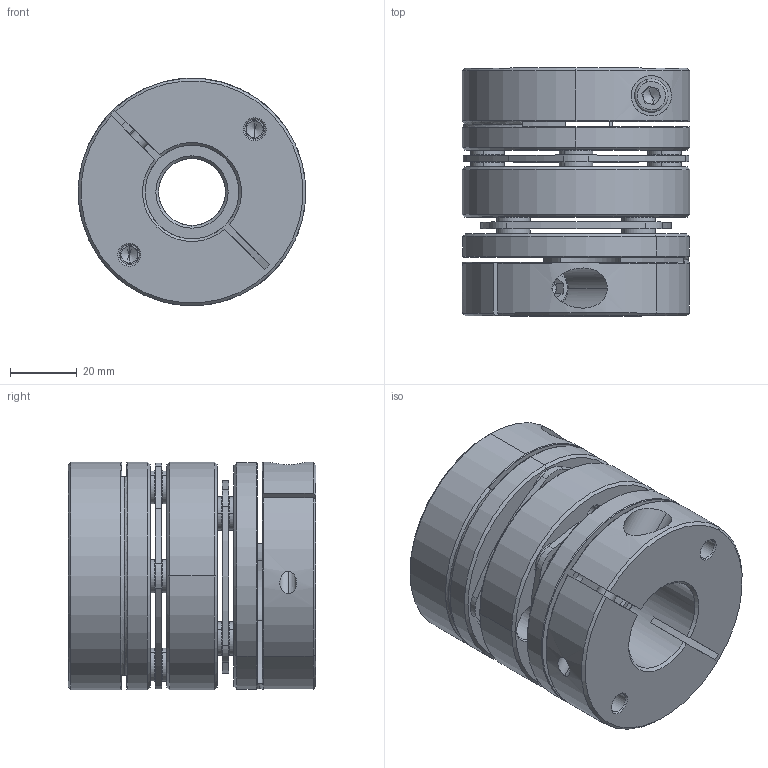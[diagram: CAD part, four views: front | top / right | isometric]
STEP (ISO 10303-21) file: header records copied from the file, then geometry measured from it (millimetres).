
FILE_DESCRIPTION (( 'STEP AP203' ), '1' );
FILE_NAME ('LD2-D68-20-28.STEP', '2021-10-26T08:35:10', ( '' ), ( '' ), 'SwSTEP 2.0', 'SolidWorks 2018', '' );
FILE_SCHEMA (( 'CONFIG_CONTROL_DESIGN' ));
Length unit declared in the file: millimetre
Products named in the file (2): LD2-D68-20-28; 錨璃102^LD2-D68
Assembly tree (1 placements, depth 2):
  LD2-D68-20-28
    錨璃102^LD2-D68
Bounding box: 68 x 74 x 68 mm (x, y, z)
Volume: 182886.5 mm3; surface area: 64036.8 mm2
Topology: 1 solids, 27 shells, 736 faces, 1708 edges, 1040 vertices
Faces by surface type: cylinder 258, cone 226, plane 222, torus 30
Entity records: 21536 total; most frequent: DIRECTION 4002, CARTESIAN_POINT 3933, ORIENTED_EDGE 3368, EDGE_CURVE 1684, AXIS2_PLACEMENT_3D 1625, VERTEX_POINT 1040, CIRCLE 885, EDGE_LOOP 872
